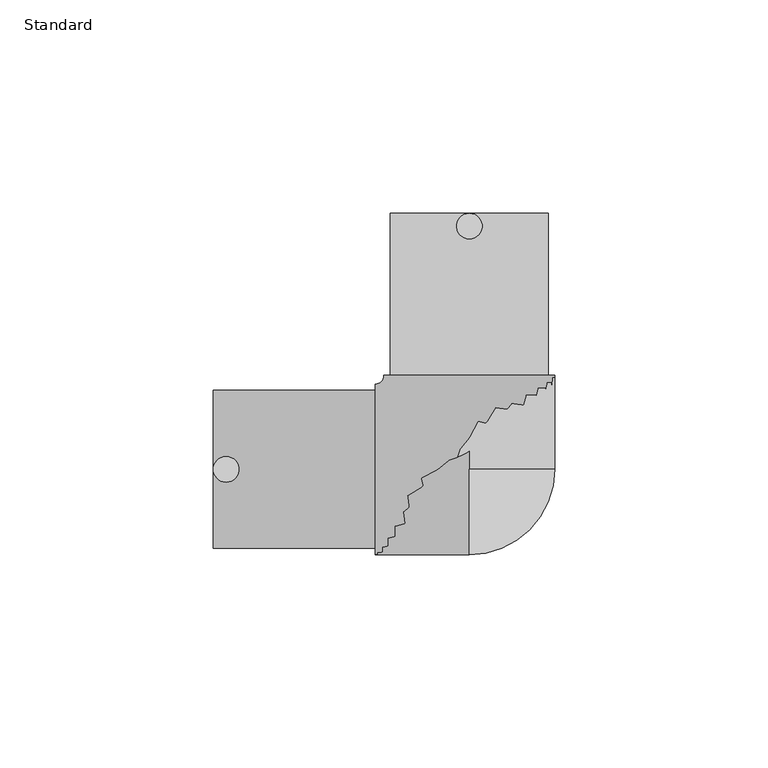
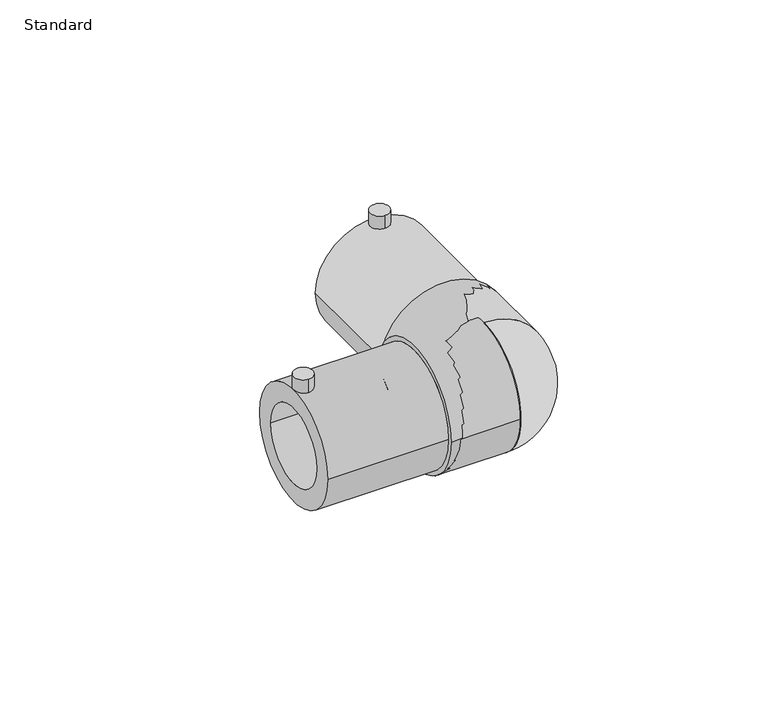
"""IFC4 building model written with IfcOpenShell, lengths in millimetres: pipe fitting geometry, EGB_VASEN_ PPR_Codo electrosoldable 90 WXRD200_Codo electrosoldable 45 WXRD220 : Standard."""

from ifc_helpers import new_model, si_unit, point, frame, frame_2d, origin, origin_2d, place, context, project, spatial, polyline, circle_curve, ellipse_curve, trimmed, segment, composite_curve, outline, extrude, source, transform, mapped, element, save
from ifc_brep_helpers import plane_surface, cylinder_surface, revolved_surface, advanced_brep


def standard_5cab26e3(model_context):
    return source(origin(), model_context, "Body", "SolidModel", [
        advanced_brep(
        [(0.0, 0.0, -20.0), (0.0, 0.0, 20.0)],
        [
            (0, 1, circle_curve(frame((0.0, 0.0, 0.0), z_axis=(-1.0, 0.0, 0.0), x_axis=(0.0, 1.0, 0.0)), 20.0)),
            (1, 0),
            (1, 0, circle_curve(frame((0.0, 0.0, 0.0), z_axis=(0.0, 1.0, 0.0), x_axis=(-1.0, 0.0, 0.0)), 20.0)),
        ],
        [
            plane_surface(frame((0.0, 0.0, 30.0431585), z_axis=(-1.0, 0.0, 0.0), x_axis=(0.0, -1.0, 0.0))),
            plane_surface(frame((0.0, 0.0, 30.0431585), z_axis=(0.0, 1.0, 0.0), x_axis=(1.0, 0.0, 0.0))),
            revolved_surface(trimmed(ellipse_curve(frame((0.0, 0.0, 0.0), z_axis=(1.0, 0.0, 0.0), x_axis=(0.0, 1.0, 0.0)), 20.0, 20.0), [point((0.0, 0.0, 20.0))], [point((0.0, 0.0, -20.0))], True, "CARTESIAN"), (0.0, 0.0, 30.0431585), (0.0, 0.0, -1.0)),
        ],
        [
            (0, [[1, 2]]),
            (1, [[3, -2]]),
            (2, [[-1, -3]]),
        ],
    ),
        advanced_brep(
        [(-60.0, -18.5, 0.0), (-60.0, 18.5, 0.0), (-60.0, -12.5, 0.0), (-60.0, 12.5, 0.0), (-22.0, -18.5, 0.0), (-22.0, 18.5, 0.0), (-22.0, -12.5, 0.0), (-22.0, 12.5, 0.0), (-22.0, -20.0, 0.0), (-22.0, 20.0, 0.0), (20.0, 22.0, 0.0), (-20.0, 22.0, 0.0), (18.5, 22.0, 0.0), (-18.5, 22.0, 0.0), (12.5, 22.0, 0.0), (-12.5, 22.0, 0.0), (18.5, 60.0, 0.0), (-18.5, 60.0, 0.0), (12.5, 60.0, 0.0), (-12.5, 60.0, 0.0)],
        [
            (0, 1, circle_curve(frame((-60.0, 0.0, 0.0), z_axis=(-1.0, 0.0, 0.0), x_axis=(0.0, 1.0, 0.0)), 18.5)),
            (1, 0, circle_curve(frame((-60.0, 0.0, 0.0), z_axis=(-1.0, 0.0, 0.0), x_axis=(0.0, 1.0, 0.0)), 18.5)),
            (2, 3, circle_curve(frame((-60.0, 0.0, 0.0), z_axis=(1.0, 0.0, 0.0), x_axis=(0.0, 1.0, 0.0)), 12.5)),
            (3, 2, circle_curve(frame((-60.0, 0.0, 0.0), z_axis=(1.0, 0.0, 0.0), x_axis=(0.0, 1.0, 0.0)), 12.5)),
            (0, 4),
            (4, 5, circle_curve(frame((-22.0, 0.0, 0.0), z_axis=(-1.0, 0.0, 0.0), x_axis=(0.0, 1.0, 0.0)), 18.5)),
            (5, 1),
            (5, 4, circle_curve(frame((-22.0, 0.0, 0.0), z_axis=(-1.0, 0.0, 0.0), x_axis=(0.0, 1.0, 0.0)), 18.5)),
            (2, 6),
            (6, 7, circle_curve(frame((-22.0, 0.0, 0.0), z_axis=(1.0, 0.0, 0.0), x_axis=(0.0, 1.0, 0.0)), 12.5)),
            (7, 3),
            (7, 6, circle_curve(frame((-22.0, 0.0, 0.0), z_axis=(1.0, 0.0, 0.0), x_axis=(0.0, 1.0, 0.0)), 12.5)),
            (8, 9, circle_curve(frame((-22.0, 0.0, 0.0), z_axis=(-1.0, 0.0, 0.0), x_axis=(0.0, 1.0, 0.0)), 20.0)),
            (9, 8, circle_curve(frame((-22.0, 0.0, 0.0), z_axis=(-1.0, 0.0, 0.0), x_axis=(0.0, 1.0, 0.0)), 20.0)),
            (10, 11, circle_curve(frame((0.0, 22.0, 0.0), z_axis=(0.0, 1.0, 0.0), x_axis=(-1.0, 0.0, 0.0)), 20.0)),
            (11, 10, circle_curve(frame((0.0, 22.0, 0.0), z_axis=(0.0, 1.0, 0.0), x_axis=(-1.0, 0.0, 0.0)), 20.0)),
            (12, 13, circle_curve(frame((0.0, 22.0, 0.0), z_axis=(0.0, -1.0, 0.0), x_axis=(-1.0, 0.0, 0.0)), 18.5)),
            (13, 12, circle_curve(frame((0.0, 22.0, 0.0), z_axis=(0.0, -1.0, 0.0), x_axis=(-1.0, 0.0, 0.0)), 18.5)),
            (14, 15, circle_curve(frame((0.0, 22.0, 0.0), z_axis=(0.0, 1.0, 0.0), x_axis=(-1.0, 0.0, 0.0)), 12.5)),
            (15, 14, circle_curve(frame((0.0, 22.0, 0.0), z_axis=(0.0, 1.0, 0.0), x_axis=(-1.0, 0.0, 0.0)), 12.5)),
            (8, 10, circle_curve(frame((-22.0, 22.0, 0.0), z_axis=(0.0, 0.0, 1.0), x_axis=(0.0, -1.0, 0.0)), 42.0)),
            (11, 9, circle_curve(frame((-22.0, 22.0, 0.0), z_axis=(0.0, 0.0, -1.0), x_axis=(0.0, -1.0, 0.0)), 2.0)),
            (16, 17, circle_curve(frame((0.0, 60.0, 0.0), z_axis=(0.0, 1.0, 0.0), x_axis=(-1.0, 0.0, 0.0)), 18.5)),
            (17, 16, circle_curve(frame((0.0, 60.0, 0.0), z_axis=(0.0, 1.0, 0.0), x_axis=(-1.0, 0.0, 0.0)), 18.5)),
            (18, 19, circle_curve(frame((0.0, 60.0, 0.0), z_axis=(0.0, -1.0, 0.0), x_axis=(-1.0, 0.0, 0.0)), 12.5)),
            (19, 18, circle_curve(frame((0.0, 60.0, 0.0), z_axis=(0.0, -1.0, 0.0), x_axis=(-1.0, 0.0, 0.0)), 12.5)),
            (17, 13),
            (12, 16),
            (19, 15),
            (14, 18),
        ],
        [
            plane_surface(frame((-60.0, 0.0, 0.0), z_axis=(-1.0, 0.0, 0.0), x_axis=(0.0, 0.0, 1.0))),
            cylinder_surface(frame((-60.0, 0.0, 0.0), z_axis=(-1.0, 0.0, 0.0), x_axis=(0.0, 1.0, 0.0)), 18.5),
            revolved_surface(polyline([(-22.0, 12.5, 0.0), (-60.0, 12.5, 0.0)]), (-60.0, 0.0, 0.0), (1.0, 0.0, 0.0)),
            plane_surface(frame((-22.0, 0.0, 0.0), z_axis=(-1.0, 0.0, 0.0), x_axis=(0.0, 0.0, 1.0))),
            plane_surface(frame((0.0, 22.0, 0.0), z_axis=(0.0, 1.0, 0.0), x_axis=(0.0, 0.0, 1.0))),
            revolved_surface(trimmed(ellipse_curve(frame((-22.0, 0.0, 0.0), z_axis=(-1.0, 0.0, 0.0), x_axis=(0.0, 1.0, 0.0)), 20.0, 20.0), [point((-22.0, -20.0, 0.0))], [point((-22.0, 20.0, 0.0))], True, "CARTESIAN"), (-22.0, 22.0, 0.0), (0.0, 0.0, 1.0)),
            revolved_surface(trimmed(ellipse_curve(frame((-22.0, 0.0, 0.0), z_axis=(-1.0, 0.0, 0.0), x_axis=(0.0, 1.0, 0.0)), 20.0, 20.0), [point((-22.0, 20.0, 0.0))], [point((-22.0, -20.0, 0.0))], True, "CARTESIAN"), (-22.0, 22.0, 0.0), (0.0, 0.0, 1.0)),
            plane_surface(frame((0.0, 60.0, 0.0), z_axis=(0.0, 1.0, 0.0), x_axis=(0.0, 0.0, 1.0))),
            cylinder_surface(frame((0.0, 22.0, 0.0), z_axis=(0.0, -1.0, 0.0), x_axis=(-1.0, 0.0, 0.0)), 18.5),
            revolved_surface(polyline([(-12.5, 60.0, 0.0), (-12.5, 22.0, 0.0)]), (0.0, 22.0, 0.0), (0.0, 1.0, 0.0)),
        ],
        [
            (0, [[1, 2], [3, 4]]),
            (1, [[-1, 5, 6, 7]]),
            (1, [[-2, -7, 8, -5]]),
            (2, [[-3, 9, 10, 11]]),
            (2, [[-4, -11, 12, -9]]),
            (3, [[-10, -12]]),
            (3, [[13, 14], [-6, -8]]),
            (4, [[15, 16], [17, 18]]),
            (4, [[19, 20]]),
            (5, [[-13, 21, -16, 22]]),
            (6, [[-14, -22, -15, -21]]),
            (7, [[23, 24], [25, 26]]),
            (8, [[-24, 27, -17, 28]]),
            (8, [[-23, -28, -18, -27]]),
            (9, [[-26, 29, -19, 30]]),
            (9, [[-25, -30, -20, -29]]),
        ],
    ),
        extrude(outline(composite_curve([segment(trimmed(circle_curve(frame_2d((0.0, 57.0)), 3.0), [point((0.0, 54.0))], [point((0.0, 60.0))], False, "CARTESIAN"), True, "CONTINUOUS"), segment(trimmed(circle_curve(frame_2d((0.0, 57.0)), 3.0), [point((0.0, 60.0))], [point((0.0, 54.0))], False, "CARTESIAN"), True, "CONTINUOUS")], self_intersect=False)), frame((0.0, 0.0, 13.5), z_axis=(0.0, 0.0, 1.0), x_axis=(1.0, 0.0, 0.0)), (0.0, 0.0, 1.0), 9.5),
        extrude(outline(composite_curve([segment(trimmed(circle_curve(frame_2d((-57.0, 0.0)), 3.0), [point((-57.0, -3.0))], [point((-57.0, 3.0))], False, "CARTESIAN"), True, "CONTINUOUS"), segment(trimmed(circle_curve(frame_2d((-57.0, 0.0)), 3.0), [point((-57.0, 3.0))], [point((-57.0, -3.0))], False, "CARTESIAN"), True, "CONTINUOUS")], self_intersect=False)), frame((0.0, 0.0, 13.5), z_axis=(0.0, 0.0, 1.0), x_axis=(1.0, 0.0, 0.0)), (0.0, 0.0, 1.0), 9.5),
        extrude(outline(composite_curve([segment(trimmed(circle_curve(origin_2d(), 20.0), [point((-20.0, 0.0))], [point((20.0, 0.0))], False, "CARTESIAN"), True, "CONTINUOUS"), segment(trimmed(circle_curve(origin_2d(), 20.0), [point((20.0, 0.0))], [point((-20.0, 0.0))], False, "CARTESIAN"), True, "CONTINUOUS")], self_intersect=False)), frame((-22.0, 0.0, 0.0), z_axis=(1.0, 0.0, 0.0), x_axis=(0.0, 1.0, 0.0)), (0.0, 0.0, 1.0), 22.0),
        extrude(outline(composite_curve([segment(trimmed(circle_curve(origin_2d(), 20.0), [point((0.0, -20.0))], [point((0.0, 20.0))], False, "CARTESIAN"), True, "CONTINUOUS"), segment(trimmed(circle_curve(origin_2d(), 20.0), [point((0.0, 20.0))], [point((0.0, -20.0))], False, "CARTESIAN"), True, "CONTINUOUS")], self_intersect=False)), frame((0.0, 0.0, 0.0), z_axis=(0.0, 1.0, 0.0), x_axis=(0.0, 0.0, 1.0)), (0.0, 0.0, 1.0), 22.0),
    ])


if __name__ == "__main__":
    model = new_model("IFC4")
    model_context = context("Model", 3, world=origin())
    ifc_project = project(units=[si_unit("LENGTHUNIT", "METRE", prefix="MILLI")], contexts=[model_context])
    site = spatial("IfcSite", under=ifc_project)
    building = spatial("IfcBuilding", under=site)
    placement = place(None, origin())
    standard_shape = standard_5cab26e3(model_context)
    element("IfcPipeFitting", 1, ObjectType="EGB_VASEN_ PPR_Codo electrosoldable 90 WXRD200_Codo electrosoldable 45 WXRD220 : Standard", at=placement, inside=building, context=model_context, shape_type="MappedRepresentation", body=[
        mapped(standard_shape, transform((0.0, 0.0, 0.0), x_axis=(1.0, 0.0, 0.0), y_axis=(0.0, 1.0, 0.0), z_axis=(0.0, 0.0, 1.0))),
    ])
    save(model, "model.ifc")
